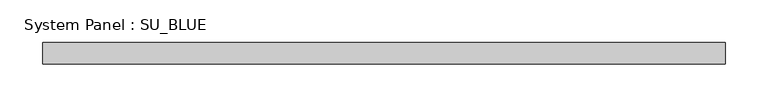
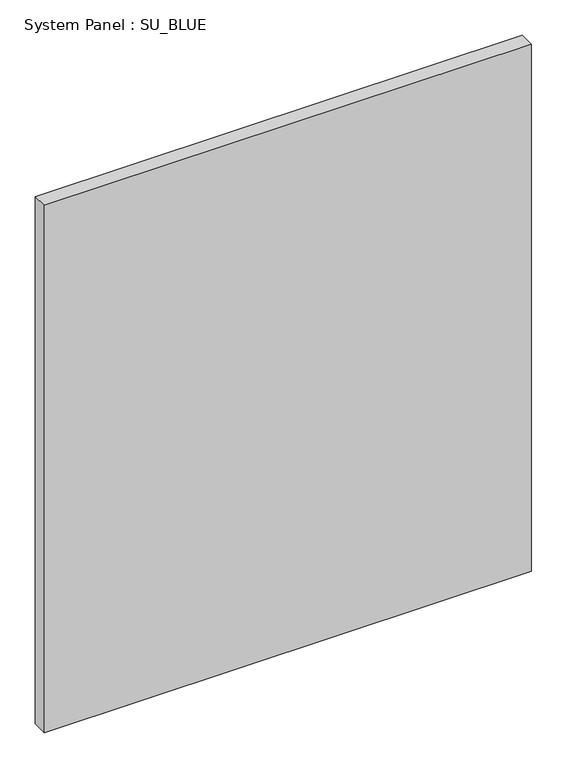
"""IFC4 building model written with IfcOpenShell, lengths in millimetres: plate geometry, System Panel : SU_BLUE."""

from ifc_helpers import new_model, si_unit, origin, origin_with_axes, place, context, project, spatial, polyline, outline, extrude, source, transform, mapped, element, save


def system_panel_su_blue_374c38cf(model_context):
    return source(origin(), model_context, "Body", "SweptSolid", [
        extrude(outline(polyline([(399.4846123, 19.05), (-399.4846123, 19.05), (-399.4846123, 44.45), (399.4846123, 44.45), (399.4846123, 19.05)])), origin_with_axes(), (0.0, 0.0, 1.0), 914.4),
    ])


if __name__ == "__main__":
    model = new_model("IFC4")
    model_context = context("Model", 3, world=origin())
    ifc_project = project(units=[si_unit("LENGTHUNIT", "METRE", prefix="MILLI")], contexts=[model_context])
    site = spatial("IfcSite", under=ifc_project)
    building = spatial("IfcBuilding", under=site)
    placement = place(None, origin())
    system_panel_su_blue_shape = system_panel_su_blue_374c38cf(model_context)
    element("IfcPlate", 1, ObjectType="System Panel : SU_BLUE", at=placement, inside=building, context=model_context, shape_type="MappedRepresentation", body=[
        mapped(system_panel_su_blue_shape, transform((0.0, 0.0, 0.0), x_axis=(1.0, 0.0, 0.0), y_axis=(0.0, 1.0, 0.0), z_axis=(0.0, 0.0, 1.0))),
    ])
    save(model, "model.ifc")
